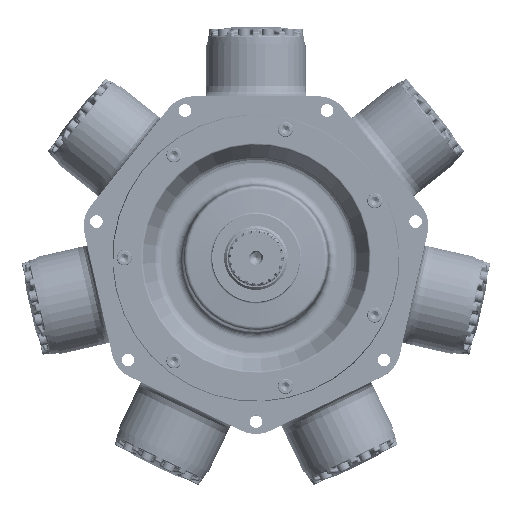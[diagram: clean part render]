
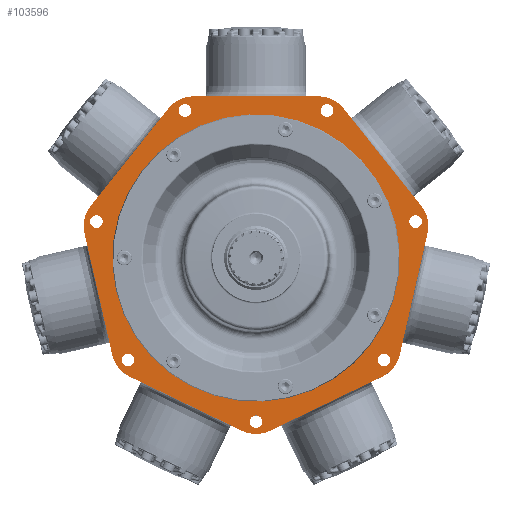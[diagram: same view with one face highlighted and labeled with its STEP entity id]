
A CAD part, top view. The second image highlights one B-rep face of the part: STEP entity #103596.
In plain terms, the highlighted planar face has unit normal (0, 0, 1).
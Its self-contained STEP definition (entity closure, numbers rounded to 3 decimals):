
#2283=FACE_BOUND('',#27101,.T.);
#2284=FACE_BOUND('',#27102,.T.);
#2285=FACE_BOUND('',#27103,.T.);
#2286=FACE_BOUND('',#27104,.T.);
#2287=FACE_BOUND('',#27105,.T.);
#2288=FACE_BOUND('',#27106,.T.);
#2289=FACE_BOUND('',#27107,.T.);
#2290=FACE_BOUND('',#27108,.T.);
#3892=PLANE('',#111893);
#9425=LINE('',#272286,#13953);
#9625=LINE('',#275782,#14153);
#9678=LINE('',#277268,#14206);
#9696=LINE('',#278097,#14224);
#9707=LINE('',#278121,#14235);
#9717=LINE('',#278181,#14245);
#9726=LINE('',#278216,#14254);
#13953=VECTOR('',#131675,10.);
#14153=VECTOR('',#132333,10.);
#14206=VECTOR('',#132628,10.);
#14224=VECTOR('',#132746,10.);
#14235=VECTOR('',#132765,10.);
#14245=VECTOR('',#132809,10.);
#14254=VECTOR('',#132830,10.);
#20604=FACE_OUTER_BOUND('',#27100,.T.);
#27100=EDGE_LOOP('',(#88826,#88827,#88828,#88829,#88830,#88831,#88832,#88833,
#88834,#88835,#88836,#88837,#88838,#88839));
#27101=EDGE_LOOP('',(#88840));
#27102=EDGE_LOOP('',(#88841));
#27103=EDGE_LOOP('',(#88842));
#27104=EDGE_LOOP('',(#88843));
#27105=EDGE_LOOP('',(#88844));
#27106=EDGE_LOOP('',(#88845));
#27107=EDGE_LOOP('',(#88846));
#27108=EDGE_LOOP('',(#88847));
#29458=CIRCLE('',#108486,228.555);
#30974=CIRCLE('',#111759,50.8);
#30989=CIRCLE('',#111781,10.);
#30991=CIRCLE('',#111784,10.);
#30993=CIRCLE('',#111787,10.);
#30995=CIRCLE('',#111790,10.);
#30997=CIRCLE('',#111793,10.);
#30999=CIRCLE('',#111796,10.);
#31001=CIRCLE('',#111799,10.);
#31006=CIRCLE('',#111809,50.8);
#31010=CIRCLE('',#111818,50.8);
#31014=CIRCLE('',#111826,50.8);
#31018=CIRCLE('',#111836,50.8);
#31025=CIRCLE('',#111852,50.8);
#31029=CIRCLE('',#111860,50.8);
#41092=VERTEX_POINT('',#214193);
#44426=VERTEX_POINT('',#272283);
#44427=VERTEX_POINT('',#272285);
#44706=VERTEX_POINT('',#275779);
#44707=VERTEX_POINT('',#275781);
#44794=VERTEX_POINT('',#277265);
#44795=VERTEX_POINT('',#277267);
#44800=VERTEX_POINT('',#277280);
#44815=VERTEX_POINT('',#278029);
#44817=VERTEX_POINT('',#278035);
#44819=VERTEX_POINT('',#278041);
#44821=VERTEX_POINT('',#278047);
#44823=VERTEX_POINT('',#278053);
#44825=VERTEX_POINT('',#278059);
#44827=VERTEX_POINT('',#278065);
#44833=VERTEX_POINT('',#278096);
#44837=VERTEX_POINT('',#278107);
#44842=VERTEX_POINT('',#278120);
#44846=VERTEX_POINT('',#278167);
#44851=VERTEX_POINT('',#278180);
#44858=VERTEX_POINT('',#278213);
#44859=VERTEX_POINT('',#278215);
#53208=EDGE_CURVE('',#41092,#41092,#29458,.T.);
#58777=EDGE_CURVE('',#44426,#44427,#9425,.T.);
#59218=EDGE_CURVE('',#44706,#44707,#9625,.T.);
#59387=EDGE_CURVE('',#44794,#44795,#9678,.T.);
#59394=EDGE_CURVE('',#44707,#44800,#30974,.T.);
#59431=EDGE_CURVE('',#44815,#44815,#30989,.T.);
#59434=EDGE_CURVE('',#44817,#44817,#30991,.T.);
#59437=EDGE_CURVE('',#44819,#44819,#30993,.T.);
#59440=EDGE_CURVE('',#44821,#44821,#30995,.T.);
#59443=EDGE_CURVE('',#44823,#44823,#30997,.T.);
#59446=EDGE_CURVE('',#44825,#44825,#30999,.T.);
#59449=EDGE_CURVE('',#44827,#44827,#31001,.T.);
#59459=EDGE_CURVE('',#44800,#44833,#9696,.T.);
#59465=EDGE_CURVE('',#44833,#44837,#31006,.T.);
#59472=EDGE_CURVE('',#44837,#44842,#9707,.T.);
#59479=EDGE_CURVE('',#44427,#44706,#31010,.T.);
#59485=EDGE_CURVE('',#44795,#44846,#31014,.T.);
#59492=EDGE_CURVE('',#44846,#44851,#9717,.T.);
#59504=EDGE_CURVE('',#44858,#44859,#9726,.T.);
#59507=EDGE_CURVE('',#44851,#44858,#31018,.T.);
#59521=EDGE_CURVE('',#44842,#44794,#31025,.T.);
#59527=EDGE_CURVE('',#44859,#44426,#31029,.T.);
#88826=ORIENTED_EDGE('',*,*,#59492,.F.);
#88827=ORIENTED_EDGE('',*,*,#59485,.F.);
#88828=ORIENTED_EDGE('',*,*,#59387,.F.);
#88829=ORIENTED_EDGE('',*,*,#59521,.F.);
#88830=ORIENTED_EDGE('',*,*,#59472,.F.);
#88831=ORIENTED_EDGE('',*,*,#59465,.F.);
#88832=ORIENTED_EDGE('',*,*,#59459,.F.);
#88833=ORIENTED_EDGE('',*,*,#59394,.F.);
#88834=ORIENTED_EDGE('',*,*,#59218,.F.);
#88835=ORIENTED_EDGE('',*,*,#59479,.F.);
#88836=ORIENTED_EDGE('',*,*,#58777,.F.);
#88837=ORIENTED_EDGE('',*,*,#59527,.F.);
#88838=ORIENTED_EDGE('',*,*,#59504,.F.);
#88839=ORIENTED_EDGE('',*,*,#59507,.F.);
#88840=ORIENTED_EDGE('',*,*,#59431,.T.);
#88841=ORIENTED_EDGE('',*,*,#59434,.T.);
#88842=ORIENTED_EDGE('',*,*,#59437,.T.);
#88843=ORIENTED_EDGE('',*,*,#59440,.T.);
#88844=ORIENTED_EDGE('',*,*,#59443,.T.);
#88845=ORIENTED_EDGE('',*,*,#59446,.T.);
#88846=ORIENTED_EDGE('',*,*,#59449,.T.);
#88847=ORIENTED_EDGE('',*,*,#53208,.F.);
#103596=ADVANCED_FACE('',(#20604,#2283,#2284,#2285,#2286,#2287,#2288,#2289,
#2290),#3892,.F.);
#108486=AXIS2_PLACEMENT_3D('',#214194,#124235,#124236);
#111759=AXIS2_PLACEMENT_3D('',#277281,#132638,#132639);
#111781=AXIS2_PLACEMENT_3D('',#278030,#132683,#132684);
#111784=AXIS2_PLACEMENT_3D('',#278036,#132690,#132691);
#111787=AXIS2_PLACEMENT_3D('',#278042,#132697,#132698);
#111790=AXIS2_PLACEMENT_3D('',#278048,#132704,#132705);
#111793=AXIS2_PLACEMENT_3D('',#278054,#132711,#132712);
#111796=AXIS2_PLACEMENT_3D('',#278060,#132718,#132719);
#111799=AXIS2_PLACEMENT_3D('',#278066,#132725,#132726);
#111809=AXIS2_PLACEMENT_3D('',#278108,#132755,#132756);
#111818=AXIS2_PLACEMENT_3D('',#278144,#132782,#132783);
#111826=AXIS2_PLACEMENT_3D('',#278168,#132799,#132800);
#111836=AXIS2_PLACEMENT_3D('',#278220,#132836,#132837);
#111852=AXIS2_PLACEMENT_3D('',#278282,#132872,#132873);
#111860=AXIS2_PLACEMENT_3D('',#278304,#132889,#132890);
#111893=AXIS2_PLACEMENT_3D('',#278343,#132958,#132959);
#124235=DIRECTION('center_axis',(0.,0.,
1.));
#124236=DIRECTION('ref_axis',(0.223,-0.975,0.));
#131675=DIRECTION('',(0.623,-0.782,0.));
#132333=DIRECTION('',(-0.223,-0.975,0.));
#132628=DIRECTION('',(-0.223,0.975,0.));
#132638=DIRECTION('center_axis',(0.,0.,-1.));
#132639=DIRECTION('ref_axis',(0.975,-0.223,0.));
#132683=DIRECTION('center_axis',(0.,0.,-1.));
#132684=DIRECTION('ref_axis',(1.,0.,0.));
#132690=DIRECTION('center_axis',(0.,0.,-1.));
#132691=DIRECTION('ref_axis',(1.,0.,0.));
#132697=DIRECTION('center_axis',(0.,0.,-1.));
#132698=DIRECTION('ref_axis',(1.,0.,0.));
#132704=DIRECTION('center_axis',(0.,0.,-1.));
#132705=DIRECTION('ref_axis',(1.,0.,0.));
#132711=DIRECTION('center_axis',(0.,0.,-1.));
#132712=DIRECTION('ref_axis',(1.,0.,0.));
#132718=DIRECTION('center_axis',(0.,0.,-1.));
#132719=DIRECTION('ref_axis',(1.,0.,0.));
#132725=DIRECTION('center_axis',(0.,0.,-1.));
#132726=DIRECTION('ref_axis',(1.,0.,0.));
#132746=DIRECTION('',(-0.901,-0.434,0.));
#132755=DIRECTION('center_axis',(0.,0.,-1.));
#132756=DIRECTION('ref_axis',(0.434,-0.901,0.));
#132765=DIRECTION('',(-0.901,0.434,0.));
#132782=DIRECTION('center_axis',(0.,0.,-1.));
#132783=DIRECTION('ref_axis',(0.782,0.623,0.));
#132799=DIRECTION('center_axis',(0.,0.,-1.));
#132800=DIRECTION('ref_axis',(-0.975,-0.223,0.));
#132809=DIRECTION('',(0.623,0.782,0.));
#132830=DIRECTION('',(1.,0.,0.));
#132836=DIRECTION('center_axis',(0.,0.,-1.));
#132837=DIRECTION('ref_axis',(-0.782,0.623,0.));
#132872=DIRECTION('center_axis',(0.,0.,-1.));
#132873=DIRECTION('ref_axis',(-0.434,-0.901,0.));
#132889=DIRECTION('center_axis',(0.,0.,-1.));
#132890=DIRECTION('ref_axis',(0.,1.,0.));
#132958=DIRECTION('center_axis',(0.,0.,-1.));
#132959=DIRECTION('ref_axis',(-1.,0.,0.));
#214193=CARTESIAN_POINT('',(222.825,50.858,-6.59));
#214194=CARTESIAN_POINT('Origin',(0.,0.,
-6.59));
#272283=CARTESIAN_POINT('',(139.102,238.048,-6.59));
#272285=CARTESIAN_POINT('',(263.033,82.644,-6.59));
#272286=CARTESIAN_POINT('',(124.931,255.818,-6.59));
#275779=CARTESIAN_POINT('',(272.842,39.666,-6.59));
#275781=CARTESIAN_POINT('',(228.612,-154.12,-6.59));
#275782=CARTESIAN_POINT('',(287.342,103.193,-6.59));
#277265=CARTESIAN_POINT('',(-228.612,-154.12,-6.59));
#277267=CARTESIAN_POINT('',(-272.842,39.666,-6.59));
#277268=CARTESIAN_POINT('',(-309.457,200.086,-6.59));
#277280=CARTESIAN_POINT('',(201.127,-188.585,-6.59));
#277281=CARTESIAN_POINT('Origin',(179.086,-142.816,-6.59));
#278029=CARTESIAN_POINT('',(-10.,-260.35,-6.59));
#278030=CARTESIAN_POINT('Origin',(0.,-260.35,-6.59));
#278035=CARTESIAN_POINT('',(243.822,57.933,-6.59));
#278036=CARTESIAN_POINT('Origin',(253.822,57.933,-6.59));
#278041=CARTESIAN_POINT('',(-263.822,57.933,-6.59));
#278042=CARTESIAN_POINT('Origin',(-253.822,57.933,-6.59));
#278047=CARTESIAN_POINT('',(193.55,-162.326,-6.59));
#278048=CARTESIAN_POINT('Origin',(203.55,-162.326,-6.59));
#278053=CARTESIAN_POINT('',(102.962,234.567,-6.59));
#278054=CARTESIAN_POINT('Origin',(112.962,234.567,-6.59));
#278059=CARTESIAN_POINT('',(-122.962,234.567,-6.59));
#278060=CARTESIAN_POINT('Origin',(-112.962,234.567,-6.59));
#278065=CARTESIAN_POINT('',(-213.55,-162.326,-6.59));
#278066=CARTESIAN_POINT('Origin',(-203.55,-162.326,-6.59));
#278096=CARTESIAN_POINT('',(22.041,-274.828,-6.59));
#278097=CARTESIAN_POINT('',(152.715,-211.899,-6.59));
#278107=CARTESIAN_POINT('',(-22.041,-274.828,-6.59));
#278108=CARTESIAN_POINT('Origin',(0.,-229.059,
-6.59));
#278120=CARTESIAN_POINT('',(-201.127,-188.585,-6.59));
#278121=CARTESIAN_POINT('',(-242.258,-168.777,-6.59));
#278144=CARTESIAN_POINT('Origin',(223.316,50.97,-6.59));
#278167=CARTESIAN_POINT('',(-263.033,82.644,-6.59));
#278168=CARTESIAN_POINT('Origin',(-223.316,50.97,-6.59));
#278180=CARTESIAN_POINT('',(-139.102,238.048,-6.59));
#278181=CARTESIAN_POINT('',(-62.966,333.52,-6.59));
#278213=CARTESIAN_POINT('',(-99.385,257.175,-6.59));
#278215=CARTESIAN_POINT('',(99.385,257.175,-6.59));
#278216=CARTESIAN_POINT('',(49.692,257.175,-6.59));
#278220=CARTESIAN_POINT('Origin',(-99.385,206.375,-6.59));
#278282=CARTESIAN_POINT('Origin',(-179.086,-142.816,-6.59));
#278304=CARTESIAN_POINT('Origin',(99.385,206.375,-6.59));
#278343=CARTESIAN_POINT('Origin',(0.,439.494,-6.59));
